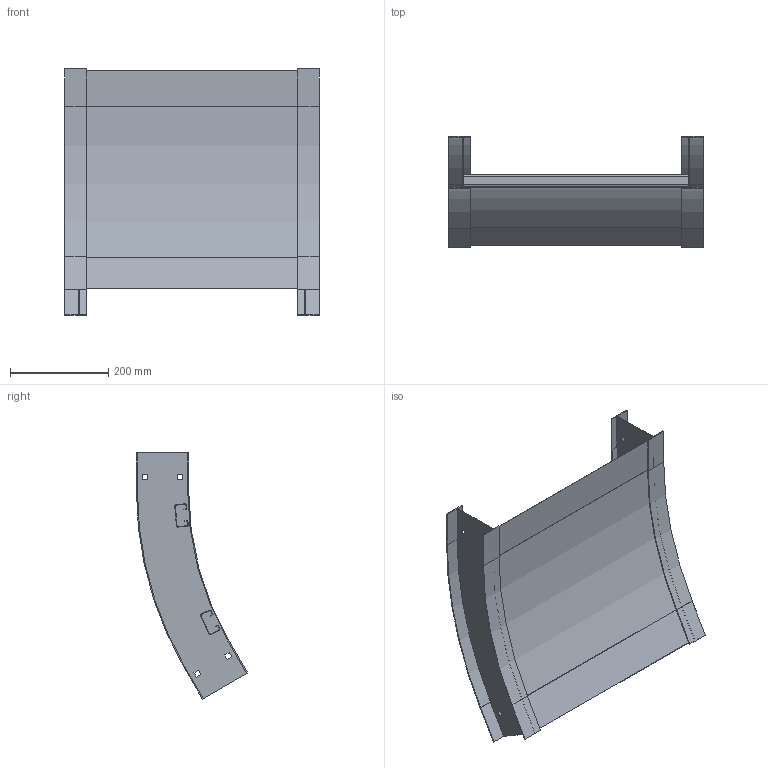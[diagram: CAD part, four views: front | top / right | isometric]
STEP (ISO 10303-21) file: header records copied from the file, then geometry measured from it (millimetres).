
FILE_DESCRIPTION((''),'2;1');
FILE_NAME('AHF418SVO3024_ASM','2010-02-02T',('erouzier'),(''),'PRO/ENGINEER BY PARAMETRIC TECHNOLOGY CORPORATION, 2008510','PRO/ENGINEER BY PARAMETRIC TECHNOLOGY CORPORATION, 2008510','');
FILE_SCHEMA(('CONFIG_CONTROL_DESIGN'));
Length unit declared in the file: inch
Products named in the file (4): CDS001658_4_30_24; CDS002159L18; ED04591_30_24_18; AHF418SVO3024_ASM
Assembly tree (5 placements, depth 2):
  AHF418SVO3024_ASM
    CDS001658_4_30_24  x2
    CDS002159L18  x2
    ED04591_30_24_18
Bounding box: 517.4 x 225.82 x 500.01 mm (x, y, z)
Volume: 715681.4 mm3; surface area: 1028030.9 mm2
Topology: 5 solids, 5 shells, 158 faces, 436 edges, 288 vertices
Faces by surface type: plane 122, cylinder 36
Entity records: 2818 total; most frequent: CARTESIAN_POINT 479, ORIENTED_EDGE 464, DIRECTION 460, EDGE_CURVE 232, VECTOR 194, LINE 194, VERTEX_POINT 152, AXIS2_PLACEMENT_3D 133
